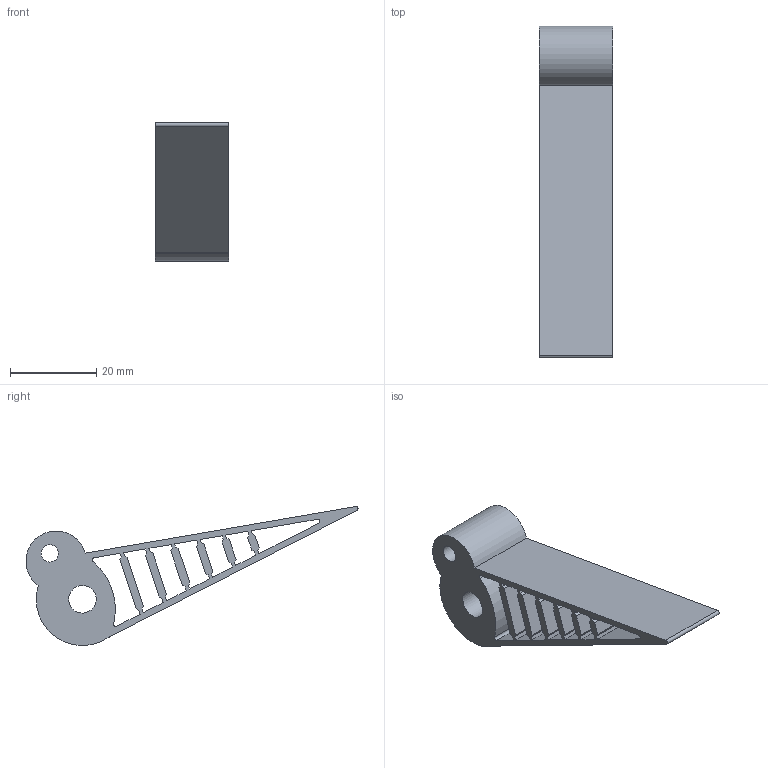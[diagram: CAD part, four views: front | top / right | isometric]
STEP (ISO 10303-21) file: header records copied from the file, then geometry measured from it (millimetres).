
FILE_DESCRIPTION(/* description */ ('STEP AP242 Edition 2','CAx-IF Rec.Pracs.---Representation and Presentation of Product Manufacturing Information (PMI)---4.0---2014-10-13','CAx-IF Rec.Pracs.---3D Tessellated Geometry---0.4---2014-09-14','2;1','CAx-IF Rec.Pracs.---User Defined Attributes---1.5---2016-08-15'),/* implementation_level */ '2;1');
FILE_NAME(/* name */ 'Assembly 1 - Finger_V2',/* time_stamp */ '2026-08-25T12:51:58Z',/* author */ (''),/* organization */ (''),/* preprocessor_version */ 'ST-DEVELOPER v20',/* originating_system */ 'ONSHAPE BY PTC INC, 1.219',/* authorisation */ ' ');
FILE_SCHEMA (('AP242_MANAGED_MODEL_BASED_3D_ENGINEERING_MIM_LF { 1 0 10303 442 3 1 4 }'));
Length unit declared in the file: metre
Products named in the file (1): Finger_V2
Bounding box: 17 x 76.83 x 32.15 mm (x, y, z)
Volume: 10500.1 mm3; surface area: 9013.1 mm2
Topology: 1 solids, 1 shells, 88 faces, 259 edges, 173 vertices
Faces by surface type: plane 79, cylinder 9
Full cylindrical faces by diameter (mm): 4 x1, 6.4 x1
Entity records: 2928 total; most frequent: CARTESIAN_POINT 517, ORIENTED_EDGE 512, DIRECTION 452, EDGE_CURVE 256, LINE 238, VECTOR 238, VERTEX_POINT 172, EDGE_LOOP 108
